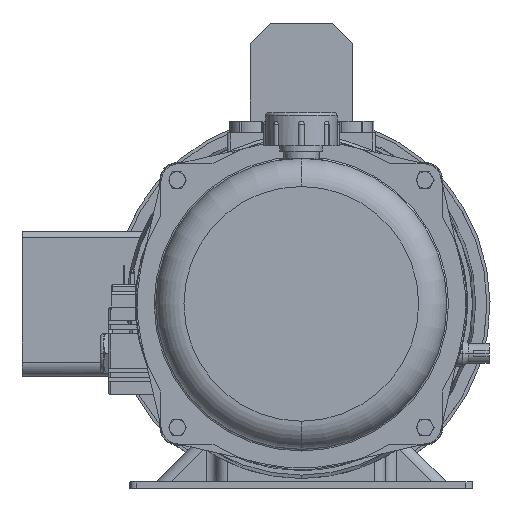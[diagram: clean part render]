
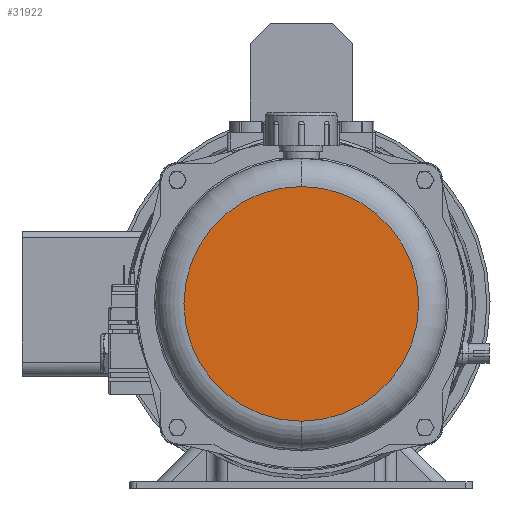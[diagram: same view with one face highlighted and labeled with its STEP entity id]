
A CAD part, front view. The second image highlights one B-rep face of the part: STEP entity #31922.
In plain terms, the highlighted planar face has unit normal (0, -1, 0).
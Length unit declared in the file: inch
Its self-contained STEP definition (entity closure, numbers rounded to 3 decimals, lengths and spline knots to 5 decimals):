
#31295=CARTESIAN_POINT('',(0.,-13.005,0.));
#31296=DIRECTION('',(0.,-1.,0.));
#31297=DIRECTION('',(0.,0.,1.));
#31298=AXIS2_PLACEMENT_3D('',#31295,#31296,#31297);
#31310=CARTESIAN_POINT('',(0.,-13.005,0.));
#31311=DIRECTION('',(0.,1.,0.));
#31312=DIRECTION('',(0.,0.,1.));
#31313=AXIS2_PLACEMENT_3D('',#31310,#31311,#31312);
#31795=CARTESIAN_POINT('',(0.,-13.005,2.2275));
#31797=VERTEX_POINT('',#31795);
#31799=CARTESIAN_POINT('',(0.,-13.005,-2.2275));
#31800=VERTEX_POINT('',#31799);
#31911=CARTESIAN_POINT('',(0.,-13.005,0.));
#31912=DIRECTION('',(0.,-1.,0.));
#31913=DIRECTION('',(0.,0.,-1.));
#31914=AXIS2_PLACEMENT_3D('',#31911,#31912,#31913);
#31915=PLANE('',#31914);
#31917=ORIENTED_EDGE('',*,*,#31916,.F.);
#31919=ORIENTED_EDGE('',*,*,#31918,.T.);
#31920=EDGE_LOOP('',(#31917,#31919));
#31921=FACE_OUTER_BOUND('',#31920,.F.);
#31922=ADVANCED_FACE('',(#31921),#31915,.T.);
#31299=CIRCLE('',#31298,2.2275);
#31314=CIRCLE('',#31313,2.2275);
#31916=EDGE_CURVE('',#31797,#31800,#31299,.T.);
#31918=EDGE_CURVE('',#31797,#31800,#31314,.T.);
